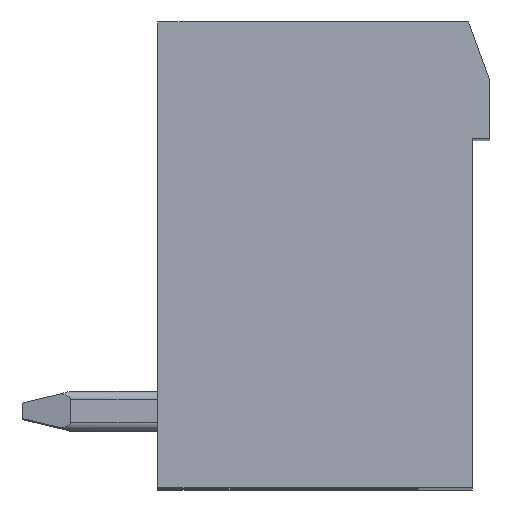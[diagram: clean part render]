
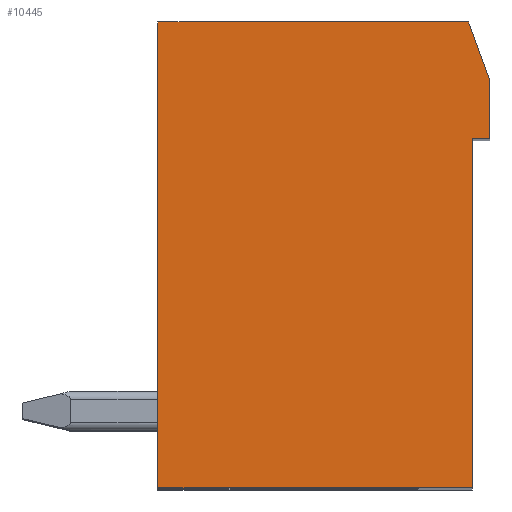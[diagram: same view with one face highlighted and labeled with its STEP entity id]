
A CAD part, top view. The second image highlights one B-rep face of the part: STEP entity #10445.
In plain terms, the highlighted planar face has unit normal (0, 0, 1).
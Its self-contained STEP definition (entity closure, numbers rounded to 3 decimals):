
#169=DIRECTION('',(0.,-1.,0.));
#170=VECTOR('',#169,1.5);
#171=CARTESIAN_POINT('',(8.55,10.5,15.24));
#172=LINE('',#171,#170);
#173=DIRECTION('',(-1.,0.,0.));
#174=VECTOR('',#173,0.45);
#175=CARTESIAN_POINT('',(8.55,9.,15.24));
#176=LINE('',#175,#174);
#177=DIRECTION('',(0.,-1.,0.));
#178=VECTOR('',#177,9.);
#179=CARTESIAN_POINT('',(8.1,9.,15.24));
#180=LINE('',#179,#178);
#181=DIRECTION('',(-1.,0.,0.));
#182=VECTOR('',#181,8.1);
#183=CARTESIAN_POINT('',(8.1,0.,15.24));
#184=LINE('',#183,#182);
#185=DIRECTION('',(0.,1.,0.));
#186=VECTOR('',#185,12.);
#187=CARTESIAN_POINT('',(0.,0.,15.24));
#188=LINE('',#187,#186);
#189=DIRECTION('',(1.,0.,0.));
#190=VECTOR('',#189,8.);
#191=CARTESIAN_POINT('',(0.,12.,15.24));
#192=LINE('',#191,#190);
#193=DIRECTION('',(0.344,-0.939,0.));
#194=VECTOR('',#193,1.598);
#195=CARTESIAN_POINT('',(8.,12.,15.24));
#196=LINE('',#195,#194);
#8125=CARTESIAN_POINT('',(8.,12.,15.24));
#8127=VERTEX_POINT('',#8125);
#8197=CARTESIAN_POINT('',(8.55,10.5,15.24));
#8199=VERTEX_POINT('',#8197);
#8261=CARTESIAN_POINT('',(8.1,9.,15.24));
#8263=VERTEX_POINT('',#8261);
#8265=CARTESIAN_POINT('',(8.55,9.,15.24));
#8267=VERTEX_POINT('',#8265);
#8269=CARTESIAN_POINT('',(8.1,0.,15.24));
#8271=VERTEX_POINT('',#8269);
#8297=CARTESIAN_POINT('',(0.,0.,15.24));
#8299=VERTEX_POINT('',#8297);
#8324=CARTESIAN_POINT('',(0.,12.,15.24));
#8326=VERTEX_POINT('',#8324);
#10431=CARTESIAN_POINT('',(4.275,6.,15.24));
#10432=DIRECTION('',(0.,0.,1.));
#10433=DIRECTION('',(1.,0.,0.));
#10434=AXIS2_PLACEMENT_3D('',#10431,#10432,#10433);
#10435=PLANE('',#10434);
#10436=ORIENTED_EDGE('',*,*,#10233,.T.);
#10437=ORIENTED_EDGE('',*,*,#10264,.T.);
#10438=ORIENTED_EDGE('',*,*,#10279,.T.);
#10439=ORIENTED_EDGE('',*,*,#10294,.T.);
#10440=ORIENTED_EDGE('',*,*,#10328,.T.);
#10441=ORIENTED_EDGE('',*,*,#10151,.T.);
#10442=ORIENTED_EDGE('',*,*,#10218,.T.);
#10443=EDGE_LOOP('',(#10436,#10437,#10438,#10439,#10440,#10441,#10442));
#10444=FACE_OUTER_BOUND('',#10443,.F.);
#10445=ADVANCED_FACE('',(#10444),#10435,.T.);
#10151=EDGE_CURVE('',#8326,#8127,#192,.T.);
#10218=EDGE_CURVE('',#8127,#8199,#196,.T.);
#10233=EDGE_CURVE('',#8199,#8267,#172,.T.);
#10264=EDGE_CURVE('',#8267,#8263,#176,.T.);
#10279=EDGE_CURVE('',#8263,#8271,#180,.T.);
#10294=EDGE_CURVE('',#8271,#8299,#184,.T.);
#10328=EDGE_CURVE('',#8299,#8326,#188,.T.);
